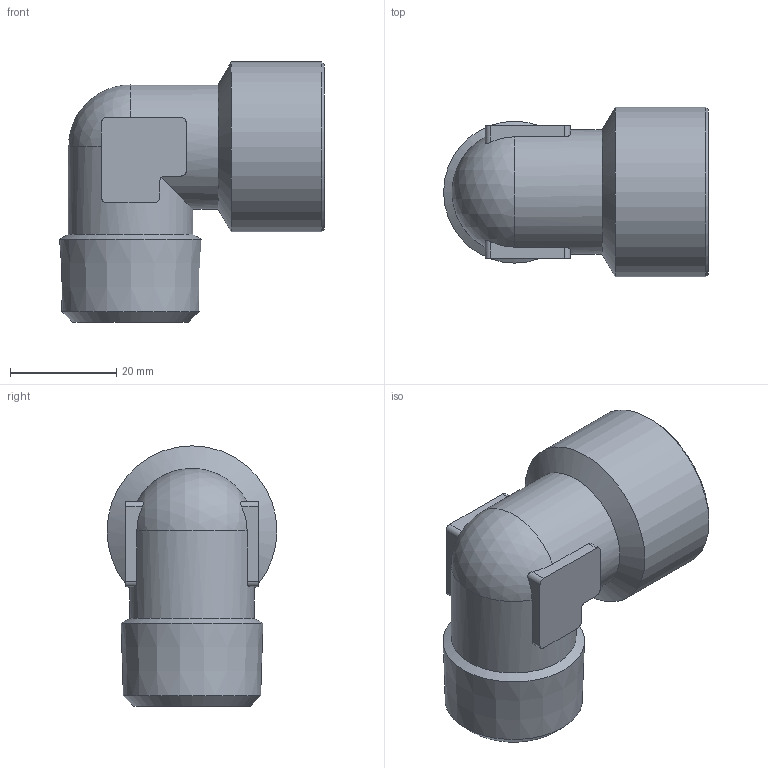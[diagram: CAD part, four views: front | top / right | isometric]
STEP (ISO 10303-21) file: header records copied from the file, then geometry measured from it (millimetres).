
FILE_DESCRIPTION(/* description */ (''),/* implementation_level */ '2;1');
FILE_NAME(/* name */ '50206_110_R34_G34_26.09.16',/* time_stamp */ '2016-09-26T11:24:44+02:00',/* author */ (''),/* organization */ (''),/* preprocessor_version */ 'ST-DEVELOPER v16.5',/* originating_system */ 'HiCAD 2016 2101.0 Build 254',/* authorisation */ '');
FILE_SCHEMA (('AUTOMOTIVE_DESIGN { 1 0 10303 214 1 1 1 1 }'));
Length unit declared in the file: millimetre
Products named in the file (2): Root; 50206
Assembly tree (1 placements, depth 2):
  Root
    50206
Bounding box: 49.85 x 32 x 49 mm (x, y, z)
Volume: 16253.5 mm3; surface area: 10973.4 mm2
Topology: 1 solids, 1 shells, 45 faces, 130 edges, 83 vertices
Faces by surface type: cylinder 18, plane 16, cone 8, sphere 3
Full cylindrical faces by diameter (mm): 19 x2, 23.5 x2, 24.117 x1, 32 x1
Entity records: 4074 total; most frequent: CARTESIAN_POINT 1976, DIRECTION 220, PRESENTATION_STYLE_ASSIGNMENT 207, COLOUR_RGB 207, DRAUGHTING_PRE_DEFINED_CURVE_FONT 206, CURVE_STYLE 206, OVER_RIDING_STYLED_ITEM 206, ORIENTED_EDGE 206
